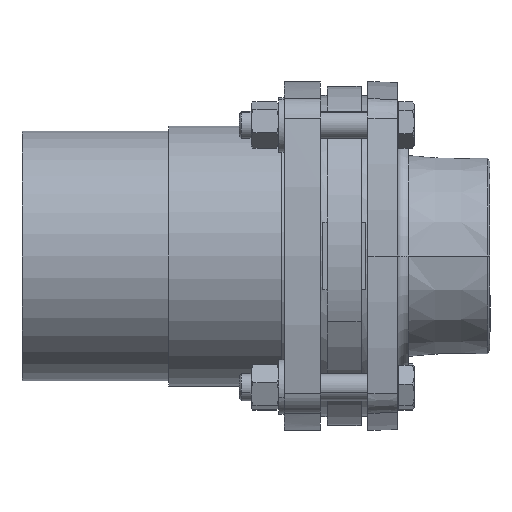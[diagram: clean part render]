
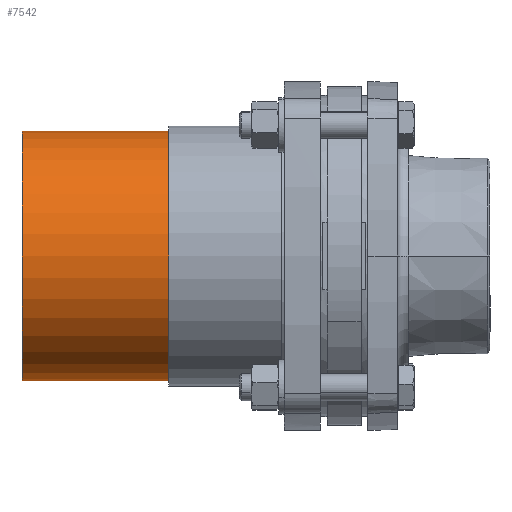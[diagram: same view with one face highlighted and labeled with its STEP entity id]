
A CAD part, front view. The second image highlights one B-rep face of the part: STEP entity #7542.
In plain terms, the highlighted cylindrical face has radius 55.25 mm (diameter 110.5 mm), a partial arc.
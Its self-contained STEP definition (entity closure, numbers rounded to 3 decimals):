
#369 = VERTEX_POINT ( 'NONE', #9330 ) ;
#374 = VERTEX_POINT ( 'NONE', #9335 ) ;
#413 = VERTEX_POINT ( 'NONE', #9373 ) ;
#423 = VERTEX_POINT ( 'NONE', #9383 ) ;
#795 = ORIENTED_EDGE ( 'NONE', *, *, #7526, .F. ) ;
#796 = ORIENTED_EDGE ( 'NONE', *, *, #10089, .F. ) ;
#797 = ORIENTED_EDGE ( 'NONE', *, *, #7509, .T. ) ;
#798 = ORIENTED_EDGE ( 'NONE', *, *, #10071, .T. ) ;
#2484 = CARTESIAN_POINT ( 'NONE',  ( -18., 0., 55.25 ) ) ;
#2489 = LINE ( 'NONE', #2484, #10473 ) ;
#2494 = DIRECTION ( 'NONE',  ( -1., 0., 0. ) ) ;
#2537 = CARTESIAN_POINT ( 'NONE',  ( -18., 0., -55.25 ) ) ;
#2541 = LINE ( 'NONE', #2537, #10503 ) ;
#2546 = DIRECTION ( 'NONE',  ( -1., 0., 0. ) ) ;
#3024 = CARTESIAN_POINT ( 'NONE',  ( -133., 0., 0. ) ) ;
#3025 = DIRECTION ( 'NONE',  ( 1., 0., 0. ) ) ;
#3026 = DIRECTION ( 'NONE',  ( 0., 0., -1. ) ) ;
#3078 = CARTESIAN_POINT ( 'NONE',  ( -18., 0., 0. ) ) ;
#3079 = DIRECTION ( 'NONE',  ( 1., 0., 0. ) ) ;
#3080 = DIRECTION ( 'NONE',  ( 0., 0., -1. ) ) ;
#5210 = DIRECTION ( 'NONE',  ( -1., 0., 0. ) ) ;
#5213 = FACE_OUTER_BOUND ( 'NONE', #6270, .T. ) ;
#5214 = CARTESIAN_POINT ( 'NONE',  ( -18., 0., 0. ) ) ;
#5216 = CYLINDRICAL_SURFACE ( 'NONE', #10525, 55.25 ) ;
#5217 = DIRECTION ( 'NONE',  ( 0., 0., 1. ) ) ;
#6270 = EDGE_LOOP ( 'NONE', ( #795, #796, #797, #798 ) ) ;
#7509 = EDGE_CURVE ( 'NONE', #423, #374, #2489, .T. ) ;
#7526 = EDGE_CURVE ( 'NONE', #369, #413, #2541, .T. ) ;
#7542 = ADVANCED_FACE ( 'NONE', ( #5213 ), #5216, .T. ) ;
#9330 = CARTESIAN_POINT ( 'NONE',  ( -18., 0., -55.25 ) ) ;
#9335 = CARTESIAN_POINT ( 'NONE',  ( -133., 0., 55.25 ) ) ;
#9373 = CARTESIAN_POINT ( 'NONE',  ( -133., 0., -55.25 ) ) ;
#9383 = CARTESIAN_POINT ( 'NONE',  ( -18., 0., 55.25 ) ) ;
#10071 = EDGE_CURVE ( 'NONE', #374, #413, #10688, .T. ) ;
#10089 = EDGE_CURVE ( 'NONE', #423, #369, #10714, .T. ) ;
#10473 = VECTOR ( 'NONE', #2494, 1000. ) ;
#10503 = VECTOR ( 'NONE', #2546, 1000. ) ;
#10525 = AXIS2_PLACEMENT_3D ( 'NONE', #5214, #5210, #5217 ) ;
#10688 = CIRCLE ( 'NONE', #10691, 55.25 ) ;
#10691 = AXIS2_PLACEMENT_3D ( 'NONE', #3024, #3025, #3026 ) ;
#10714 = CIRCLE ( 'NONE', #10727, 55.25 ) ;
#10727 = AXIS2_PLACEMENT_3D ( 'NONE', #3078, #3079, #3080 ) ;
